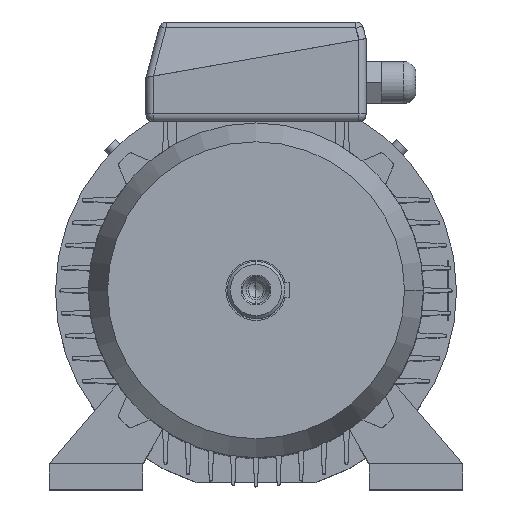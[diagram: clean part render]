
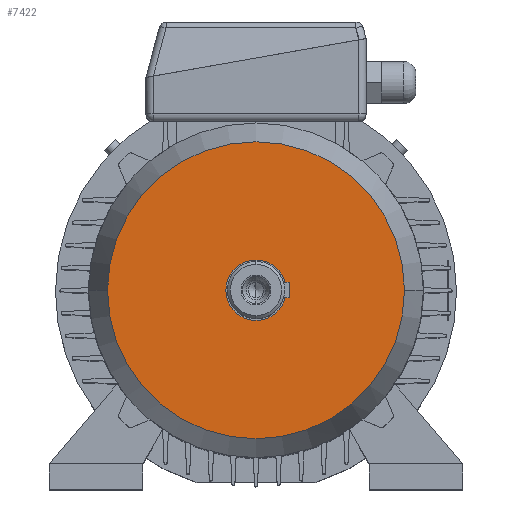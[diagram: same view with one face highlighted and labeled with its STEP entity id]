
A CAD part, top view. The second image highlights one B-rep face of the part: STEP entity #7422.
In plain terms, the highlighted planar face has unit normal (0, 0, 1).
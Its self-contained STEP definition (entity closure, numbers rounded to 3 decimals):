
#2351 = CIRCLE ( 'NONE', #2352, 98.5 ) ;
#2352 = AXIS2_PLACEMENT_3D ( 'NONE', #2353, #2354, #2355 ) ;
#2353 = CARTESIAN_POINT ( 'NONE',  ( 0., 0., 47. ) ) ;
#2354 = DIRECTION ( 'NONE',  ( 0., 0., -1. ) ) ;
#2355 = DIRECTION ( 'NONE',  ( -1., 0., 0. ) ) ;
#2723 = FACE_OUTER_BOUND ( 'NONE', #7487, .T. ) ;
#2724 = PLANE ( 'NONE',  #2725 ) ;
#2725 = AXIS2_PLACEMENT_3D ( 'NONE', #2726, #2727, #2728 ) ;
#2726 = CARTESIAN_POINT ( 'NONE',  ( 0., 98.5, 47. ) ) ;
#2727 = DIRECTION ( 'NONE',  ( 0., 0., 1. ) ) ;
#2728 = DIRECTION ( 'NONE',  ( 1., 0., 0. ) ) ;
#3153 = CARTESIAN_POINT ( 'NONE',  ( -98.5, 0., 47. ) ) ;
#4815 = EDGE_CURVE ( 'NONE', #7599, #10504, #10274, .T. ) ;
#4976 = CARTESIAN_POINT ( 'NONE',  ( 98.5, 0., 47. ) ) ;
#5979 = ORIENTED_EDGE ( 'NONE', *, *, #4815, .F. ) ;
#6177 = ORIENTED_EDGE ( 'NONE', *, *, #7219, .F. ) ;
#7219 = EDGE_CURVE ( 'NONE', #10504, #7599, #2351, .T. ) ;
#7422 = ADVANCED_FACE ( 'NONE', ( #2723 ), #2724, .T. ) ;
#7487 = EDGE_LOOP ( 'NONE', ( #5979, #6177 ) ) ;
#7599 = VERTEX_POINT ( 'NONE', #3153 ) ;
#10274 = CIRCLE ( 'NONE', #10275, 98.5 ) ;
#10275 = AXIS2_PLACEMENT_3D ( 'NONE', #10276, #10277, #10278 ) ;
#10276 = CARTESIAN_POINT ( 'NONE',  ( 0., 0., 47. ) ) ;
#10277 = DIRECTION ( 'NONE',  ( 0., 0., -1. ) ) ;
#10278 = DIRECTION ( 'NONE',  ( -1., 0., 0. ) ) ;
#10504 = VERTEX_POINT ( 'NONE', #4976 ) ;
